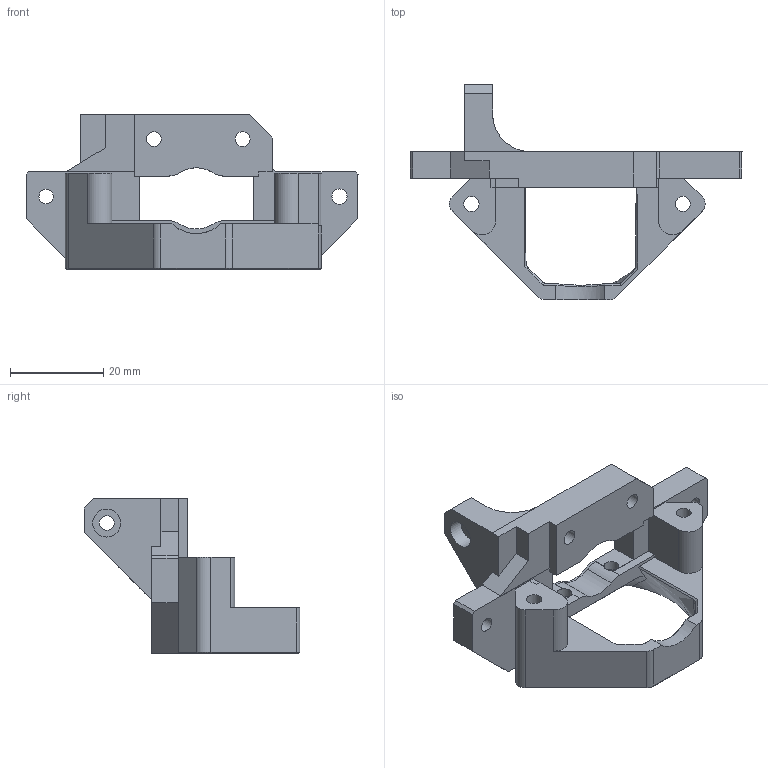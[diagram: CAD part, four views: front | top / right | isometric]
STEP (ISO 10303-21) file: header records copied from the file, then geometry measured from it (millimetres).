
FILE_DESCRIPTION(/* description */ (''),/* implementation_level */ '2;1');
FILE_NAME(/* name */ 'C:/Users/Martin/Documents/icarus-2.1/icarus-2-current-step-files/2-mounts/mount-lgx-lite-dragonfly-bms-2.1.step',/* time_stamp */ '2022-08-22T21:29:53+02:00',/* author */ (''),/* organization */ (''),/* preprocessor_version */ 'ST-DEVELOPER v19',/* originating_system */ 'Autodesk Translation Framework v11.7.0.108',/* authorisation */ '');
FILE_SCHEMA (('AUTOMOTIVE_DESIGN { 1 0 10303 214 3 1 1 }'));
Length unit declared in the file: millimetre
Products named in the file (1): icarus-2-hotend-extruder-mounts
Bounding box: 71.07 x 46.08 x 33.12 mm (x, y, z)
Volume: 15492.2 mm3; surface area: 9065.3 mm2
Topology: 1 solids, 1 shells, 152 faces, 450 edges, 297 vertices
Faces by surface type: plane 82, cylinder 38, bspline 24, cone 8
Full cylindrical faces by diameter (mm): 3.1 x1, 3.15 x1, 3.2 x6, 3.25 x4, 5.8 x2, 6 x1
Entity records: 6477 total; most frequent: CARTESIAN_POINT 2429, ORIENTED_EDGE 900, DIRECTION 741, EDGE_CURVE 450, VERTEX_POINT 297, LINE 283, VECTOR 283, AXIS2_PLACEMENT_3D 229
